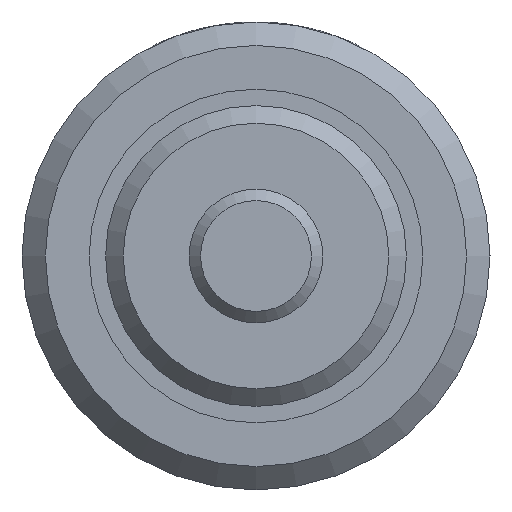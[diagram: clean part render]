
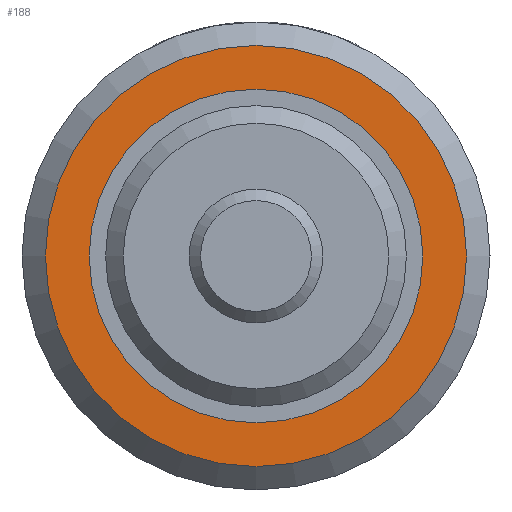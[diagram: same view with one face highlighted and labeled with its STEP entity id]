
A CAD part, left-side view. The second image highlights one B-rep face of the part: STEP entity #188.
In plain terms, the highlighted planar face has unit normal (-1, 0, 0).
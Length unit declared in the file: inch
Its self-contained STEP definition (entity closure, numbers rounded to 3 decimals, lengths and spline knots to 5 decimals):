
#188 = ADVANCED_FACE( '', ( #395, #396 ), #397, .F. );
#395 = FACE_OUTER_BOUND( '', #643, .T. );
#396 = FACE_BOUND( '', #644, .T. );
#397 = PLANE( '', #645 );
#643 = EDGE_LOOP( '', ( #980 ) );
#644 = EDGE_LOOP( '', ( #981 ) );
#645 = AXIS2_PLACEMENT_3D( '', #982, #983, #984 );
#980 = ORIENTED_EDGE( '', *, *, #1301, .F. );
#981 = ORIENTED_EDGE( '', *, *, #1263, .T. );
#982 = CARTESIAN_POINT( '', ( 0.5, 0.312, 0. ) );
#983 = DIRECTION( '', ( 1., 0., 0. ) );
#984 = DIRECTION( '', ( 0., 0., -1. ) );
#1263 = EDGE_CURVE( '', #1447, #1447, #1448, .T. );
#1301 = EDGE_CURVE( '', #1507, #1507, #1508, .T. );
#1447 = VERTEX_POINT( '', #1699 );
#1448 = CIRCLE( '', #1700, 0.312 );
#1507 = VERTEX_POINT( '', #1809 );
#1508 = CIRCLE( '', #1810, 0.39375 );
#1699 = CARTESIAN_POINT( '', ( 0.5, 0., -0.312 ) );
#1700 = AXIS2_PLACEMENT_3D( '', #2204, #2205, #2206 );
#1809 = CARTESIAN_POINT( '', ( 0.5, 0., -0.39375 ) );
#1810 = AXIS2_PLACEMENT_3D( '', #2251, #2252, #2253 );
#2204 = CARTESIAN_POINT( '', ( 0.5, 0., 0. ) );
#2205 = DIRECTION( '', ( 1., 0., 0. ) );
#2206 = DIRECTION( '', ( 0., 0., -1. ) );
#2251 = CARTESIAN_POINT( '', ( 0.5, 0., 0. ) );
#2252 = DIRECTION( '', ( 1., 0., 0. ) );
#2253 = DIRECTION( '', ( 0., 0., -1. ) );
